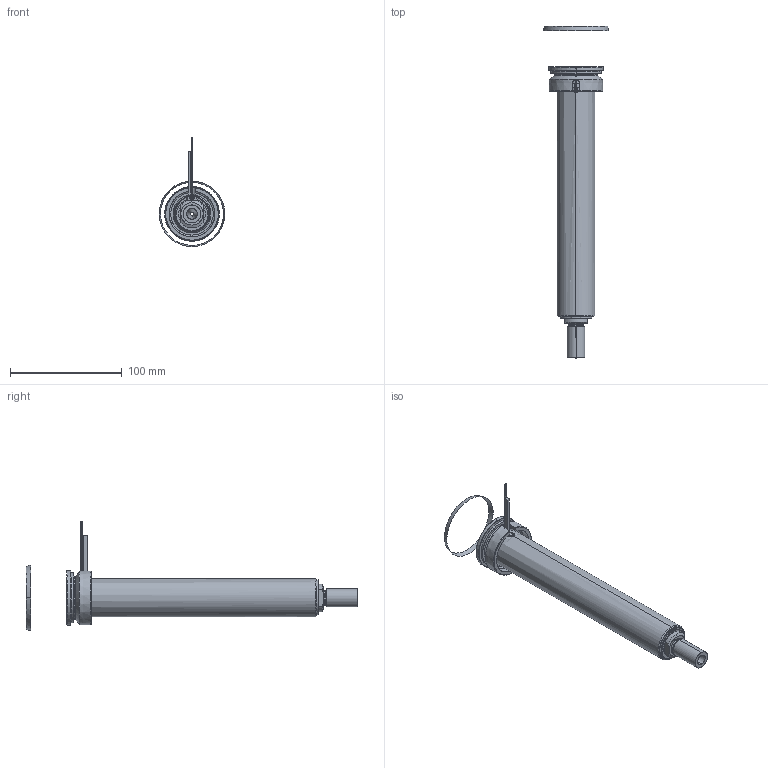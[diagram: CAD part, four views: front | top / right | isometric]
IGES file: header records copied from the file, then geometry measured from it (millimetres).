
Start section: SolidWorks IGES file using analytic representation for surfaces
Global section: file name: C:\Documents and Settings\ws-20\Desktop\TEMPORANEA\UGBE5005-S-A-P-5 [Ød-3.5 P-25 ØC-12].IGS; native system: SolidWorks 2012; preprocessor: SolidWorks 2012; author: ws-20; date: 120306.150513; units: millimetre
Bounding box: 58.79 x 297.44 x 98.01 mm (x, y, z)
Surface area: 90244.3 mm2 (no closed solid volume)
Topology: 0 solids, 0 shells, 109 faces, 2096 edges, 2096 vertices
Faces by surface type: revolution 68, bspline 41
